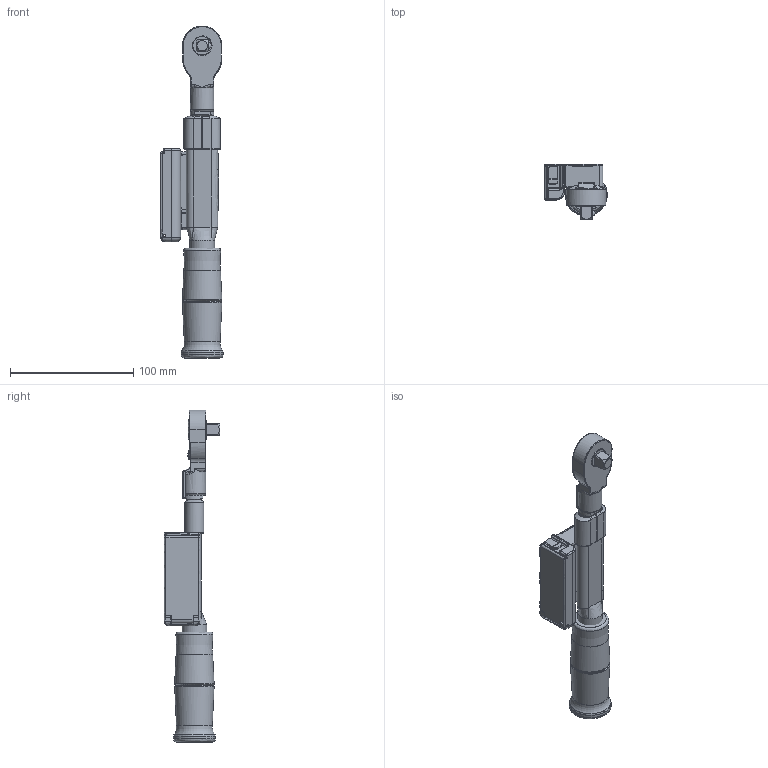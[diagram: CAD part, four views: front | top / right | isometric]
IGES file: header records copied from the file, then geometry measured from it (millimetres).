
Global section: file name: CSPFDD50N3X12D+QH12D; native system: Autodesk Inventor 2016; preprocessor: unknown; author: Q600; date: 20160428.175210; units: millimetre
Bounding box: 50.5 x 45.35 x 269 mm (x, y, z)
Surface area: 45068 mm2 (no closed solid volume)
Topology: 0 solids, 0 shells, 283 faces, 1779 edges, 1763 vertices
Faces by surface type: revolution 167, bspline 116
